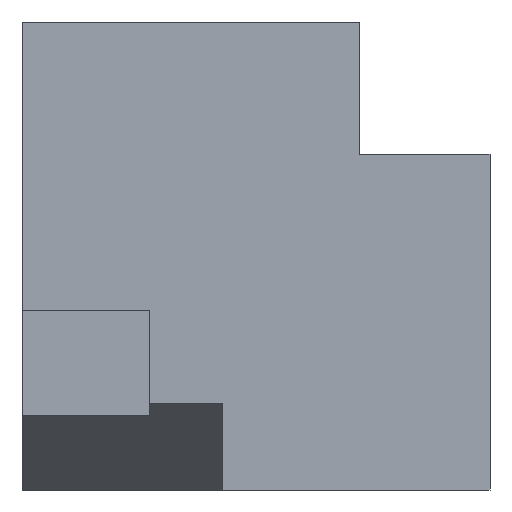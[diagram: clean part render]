
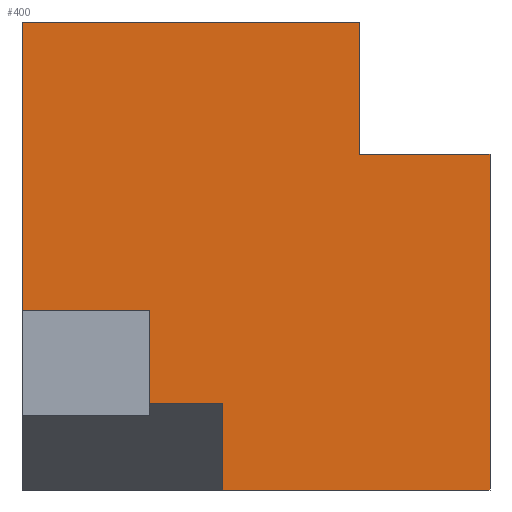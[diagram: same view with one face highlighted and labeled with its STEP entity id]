
A CAD part, left-side view. The second image highlights one B-rep face of the part: STEP entity #400.
In plain terms, the highlighted planar face has unit normal (-1, 0, 0).
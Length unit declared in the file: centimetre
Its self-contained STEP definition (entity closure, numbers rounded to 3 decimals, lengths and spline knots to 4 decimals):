
#7 = CARTESIAN_POINT ( 'NONE',  ( 0., 571.519, 184.1509 ) ) ;
#13 = CARTESIAN_POINT ( 'NONE',  ( 0., 0., 1000. ) ) ;
#20 = LINE ( 'NONE', #13, #372 ) ;
#34 = DIRECTION ( 'NONE',  ( 0., 0., 1. ) ) ;
#43 = VECTOR ( 'NONE', #34, 100. ) ;
#48 = VERTEX_POINT ( 'NONE', #936 ) ;
#116 = ORIENTED_EDGE ( 'NONE', *, *, #835, .F. ) ;
#159 = VECTOR ( 'NONE', #344, 100. ) ;
#161 = VECTOR ( 'NONE', #169, 100. ) ;
#164 = VERTEX_POINT ( 'NONE', #416 ) ;
#165 = DIRECTION ( 'NONE',  ( 0., 1., 0. ) ) ;
#169 = DIRECTION ( 'NONE',  ( 0., -1., 0. ) ) ;
#222 = PLANE ( 'NONE',  #951 ) ;
#226 = EDGE_CURVE ( 'NONE', #1127, #365, #20, .T. ) ;
#243 = CARTESIAN_POINT ( 'NONE',  ( 0., 571.519, 184.1509 ) ) ;
#246 = ORIENTED_EDGE ( 'NONE', *, *, #347, .F. ) ;
#265 = EDGE_CURVE ( 'NONE', #164, #365, #429, .T. ) ;
#266 = DIRECTION ( 'NONE',  ( 0., 0., 1. ) ) ;
#268 = LINE ( 'NONE', #887, #161 ) ;
#290 = ORIENTED_EDGE ( 'NONE', *, *, #726, .F. ) ;
#291 = CARTESIAN_POINT ( 'NONE',  ( 0., 1000., 1000. ) ) ;
#295 = DIRECTION ( 'NONE',  ( 0., 0., -1. ) ) ;
#324 = LINE ( 'NONE', #243, #423 ) ;
#331 = CARTESIAN_POINT ( 'NONE',  ( 0., 279.5557, 716.916 ) ) ;
#333 = VECTOR ( 'NONE', #266, 100. ) ;
#336 = ORIENTED_EDGE ( 'NONE', *, *, #663, .F. ) ;
#344 = DIRECTION ( 'NONE',  ( 0., -1., 0. ) ) ;
#347 = EDGE_CURVE ( 'NONE', #164, #1067, #432, .T. ) ;
#364 = CARTESIAN_POINT ( 'NONE',  ( 0., 279.5557, 1000. ) ) ;
#365 = VERTEX_POINT ( 'NONE', #1076 ) ;
#372 = VECTOR ( 'NONE', #616, 100. ) ;
#379 = ORIENTED_EDGE ( 'NONE', *, *, #590, .F. ) ;
#400 = ADVANCED_FACE ( 'NONE', ( #832 ), #222, .F. ) ;
#416 = CARTESIAN_POINT ( 'NONE',  ( 0., 571.519, 0. ) ) ;
#421 = CARTESIAN_POINT ( 'NONE',  ( 0., 279.5557, 716.916 ) ) ;
#423 = VECTOR ( 'NONE', #165, 100. ) ;
#429 = LINE ( 'NONE', #987, #159 ) ;
#432 = LINE ( 'NONE', #721, #43 ) ;
#442 = CARTESIAN_POINT ( 'NONE',  ( 0., 0., 716.916 ) ) ;
#463 = VECTOR ( 'NONE', #980, 100. ) ;
#483 = VECTOR ( 'NONE', #1039, 100. ) ;
#498 = DIRECTION ( 'NONE',  ( 0., 0., -1. ) ) ;
#503 = EDGE_CURVE ( 'NONE', #551, #1041, #1083, .T. ) ;
#549 = EDGE_CURVE ( 'NONE', #551, #48, #591, .T. ) ;
#551 = VERTEX_POINT ( 'NONE', #774 ) ;
#560 = VECTOR ( 'NONE', #498, 100. ) ;
#590 = EDGE_CURVE ( 'NONE', #1067, #1085, #324, .T. ) ;
#591 = LINE ( 'NONE', #754, #560 ) ;
#596 = VECTOR ( 'NONE', #908, 100. ) ;
#616 = DIRECTION ( 'NONE',  ( 0., 0., -1. ) ) ;
#631 = VERTEX_POINT ( 'NONE', #986 ) ;
#663 = EDGE_CURVE ( 'NONE', #1041, #678, #805, .T. ) ;
#678 = VERTEX_POINT ( 'NONE', #421 ) ;
#682 = LINE ( 'NONE', #686, #483 ) ;
#686 = CARTESIAN_POINT ( 'NONE',  ( 0., 728.186, 384.1657 ) ) ;
#700 = ORIENTED_EDGE ( 'NONE', *, *, #849, .F. ) ;
#721 = CARTESIAN_POINT ( 'NONE',  ( 0., 571.519, 0. ) ) ;
#724 = EDGE_LOOP ( 'NONE', ( #808, #700, #116, #379, #246, #892, #773, #290, #336, #809 ) ) ;
#726 = EDGE_CURVE ( 'NONE', #678, #1127, #268, .T. ) ;
#754 = CARTESIAN_POINT ( 'NONE',  ( 0., 1000., 1000. ) ) ;
#773 = ORIENTED_EDGE ( 'NONE', *, *, #226, .F. ) ;
#774 = CARTESIAN_POINT ( 'NONE',  ( 0., 1000., 1000. ) ) ;
#805 = LINE ( 'NONE', #331, #463 ) ;
#808 = ORIENTED_EDGE ( 'NONE', *, *, #549, .T. ) ;
#809 = ORIENTED_EDGE ( 'NONE', *, *, #503, .F. ) ;
#828 = CARTESIAN_POINT ( 'NONE',  ( 0., 1000., 1000. ) ) ;
#832 = FACE_OUTER_BOUND ( 'NONE', #724, .T. ) ;
#835 = EDGE_CURVE ( 'NONE', #1085, #631, #921, .T. ) ;
#849 = EDGE_CURVE ( 'NONE', #631, #48, #682, .T. ) ;
#887 = CARTESIAN_POINT ( 'NONE',  ( 0., 0., 716.916 ) ) ;
#892 = ORIENTED_EDGE ( 'NONE', *, *, #265, .T. ) ;
#908 = DIRECTION ( 'NONE',  ( 0., -1., 0. ) ) ;
#921 = LINE ( 'NONE', #953, #333 ) ;
#936 = CARTESIAN_POINT ( 'NONE',  ( 0., 1000., 384.1657 ) ) ;
#951 = AXIS2_PLACEMENT_3D ( 'NONE', #828, #1089, #295 ) ;
#953 = CARTESIAN_POINT ( 'NONE',  ( 0., 728.186, 159.4488 ) ) ;
#980 = DIRECTION ( 'NONE',  ( 0., 0., -1. ) ) ;
#986 = CARTESIAN_POINT ( 'NONE',  ( 0., 728.186, 384.1657 ) ) ;
#987 = CARTESIAN_POINT ( 'NONE',  ( 0., 1000., 0. ) ) ;
#1039 = DIRECTION ( 'NONE',  ( 0., 1., 0. ) ) ;
#1041 = VERTEX_POINT ( 'NONE', #364 ) ;
#1051 = CARTESIAN_POINT ( 'NONE',  ( 0., 728.186, 184.1509 ) ) ;
#1067 = VERTEX_POINT ( 'NONE', #7 ) ;
#1076 = CARTESIAN_POINT ( 'NONE',  ( 0., 0., 0. ) ) ;
#1083 = LINE ( 'NONE', #291, #596 ) ;
#1085 = VERTEX_POINT ( 'NONE', #1051 ) ;
#1089 = DIRECTION ( 'NONE',  ( 1., 0., 0. ) ) ;
#1127 = VERTEX_POINT ( 'NONE', #442 ) ;
